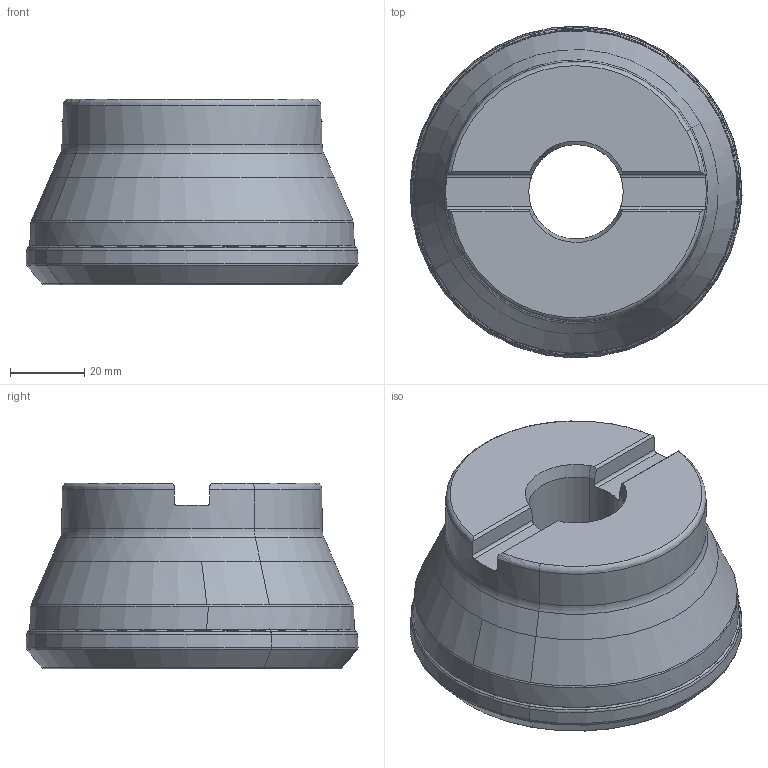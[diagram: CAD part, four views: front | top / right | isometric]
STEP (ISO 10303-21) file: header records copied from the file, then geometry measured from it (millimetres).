
FILE_DESCRIPTION(('CATIA V5 STEP','CAx-IF Rec.Pracs.--- Model Styling and Organization---1.2---2011-12-15'),'2;1');
FILE_NAME('N:\data\isr\design\special1\users\NATALY_B\Tal\NPA\3106856\IQ845 FSYD080-08-25.4-R07-L.stp','2016-06-07T04:47:38+00:00',('none'),('none'),'CATIA Version 5 Release 21 SP 5 (IN-10)','CATIA V5 STEP AP214','none');
FILE_SCHEMA(('AUTOMOTIVE_DESIGN { 1 0 10303 214 1 1 1 1 }'));
Length unit declared in the file: millimetre
Products named in the file (1): IQ845 FSYD080-08-25.4-R07
Bounding box: 89.26 x 89.26 x 50 mm (x, y, z)
Volume: 222182.5 mm3; surface area: 35934.3 mm2
Topology: 2 solids, 2 shells, 122 faces, 300 edges, 181 vertices
Faces by surface type: revolution 78, plane 14, torus 12, cylinder 10, cone 8
Entity records: 4618 total; most frequent: CARTESIAN_POINT 2101, ORIENTED_EDGE 548, DIRECTION 308, EDGE_CURVE 274, B_SPLINE_CURVE_WITH_KNOTS 204, AXIS2_PLACEMENT_3D 157, VERTEX_POINT 154, CIRCLE 128
